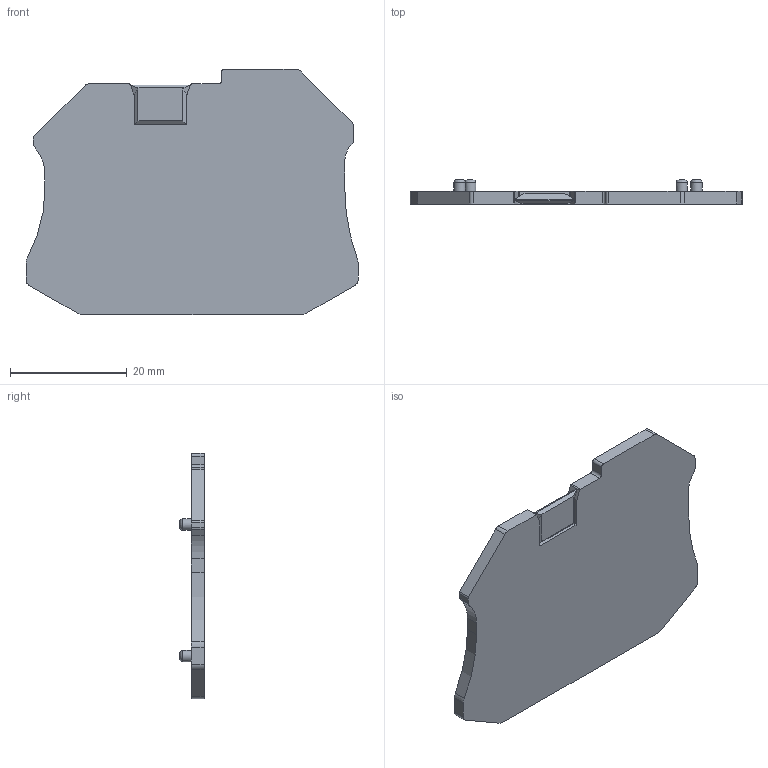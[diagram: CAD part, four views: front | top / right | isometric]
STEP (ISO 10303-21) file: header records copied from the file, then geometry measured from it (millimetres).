
FILE_DESCRIPTION( ('This file contains a STEP AP42 implementation' ,'as created by ZW3D STEP Interface translator.') ,'2;1' );
FILE_NAME( 'D-RUT4-TWIN.stp' ,'23 729.141545', (''), ('ZWCAD Software Co.'), 'Version 1.0', 'ZW3D to STEP translator', '' );
FILE_SCHEMA(('AUTOMOTIVE_DESIGN { 1 0 10303 214 1 1 1 1 }'));
Length unit declared in the file: millimetre
Products named in the file (2): 0; RUT4-TWIN_錨璃45
Bounding box: 56.8 x 4.2 x 42 mm (x, y, z)
Volume: 4501.5 mm3; surface area: 4591.7 mm2
Topology: 1 solids, 1 shells, 77 faces, 242 edges, 214 vertices
Faces by surface type: plane 45, cylinder 28, bspline 4
Full cylindrical faces by diameter (mm): 1.95 x4
Entity records: 3033 total; most frequent: CARTESIAN_POINT 800, DIRECTION 450, ORIENTED_EDGE 398, EDGE_CURVE 199, VECTOR 152, LINE 152, AXIS2_PLACEMENT_3D 149, VERTEX_POINT 128
